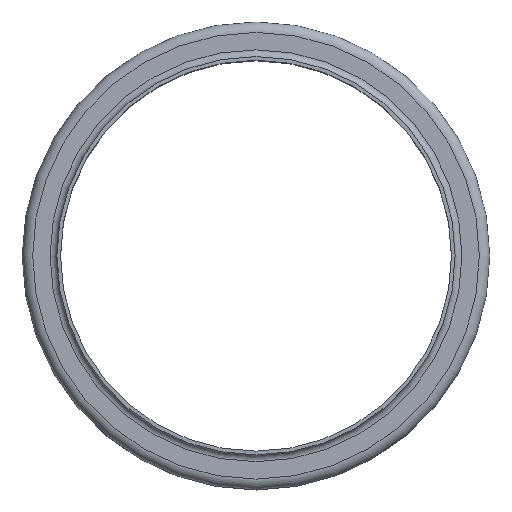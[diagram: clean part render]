
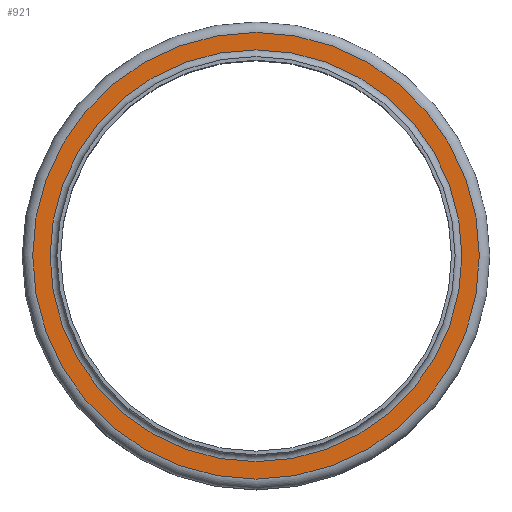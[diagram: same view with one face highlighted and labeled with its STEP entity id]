
A CAD part, top view. The second image highlights one B-rep face of the part: STEP entity #921.
In plain terms, the highlighted planar face has unit normal (0, 0, 1).
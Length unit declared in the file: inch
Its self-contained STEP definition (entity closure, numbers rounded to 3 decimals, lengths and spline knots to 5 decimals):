
#98=FACE_BOUND('',#272,.T.);
#165=FACE_OUTER_BOUND('',#271,.T.);
#271=EDGE_LOOP('',(#772));
#272=EDGE_LOOP('',(#773));
#385=CIRCLE('',#1110,6.71625);
#386=CIRCLE('',#1112,7.28375);
#466=VERTEX_POINT('',#1734);
#467=VERTEX_POINT('',#1738);
#571=EDGE_CURVE('',#466,#466,#385,.T.);
#572=EDGE_CURVE('',#467,#467,#386,.T.);
#772=ORIENTED_EDGE('',*,*,#572,.F.);
#773=ORIENTED_EDGE('',*,*,#571,.T.);
#854=PLANE('',#1111);
#921=ADVANCED_FACE('',(#165,#98),#854,.T.);
#1110=AXIS2_PLACEMENT_3D('',#1736,#1446,#1447);
#1111=AXIS2_PLACEMENT_3D('',#1737,#1448,#1449);
#1112=AXIS2_PLACEMENT_3D('',#1739,#1450,#1451);
#1446=DIRECTION('center_axis',(0.,0.,-1.));
#1447=DIRECTION('ref_axis',(1.,0.,0.));
#1448=DIRECTION('center_axis',(0.,0.,1.));
#1449=DIRECTION('ref_axis',(1.,0.,0.));
#1450=DIRECTION('center_axis',(0.,0.,-1.));
#1451=DIRECTION('ref_axis',(1.,0.,0.));
#1734=CARTESIAN_POINT('',(6.71625,0.,-0.22125));
#1736=CARTESIAN_POINT('Origin',(0.,0.,-0.22125));
#1737=CARTESIAN_POINT('Origin',(0.,7.28375,-0.22125));
#1738=CARTESIAN_POINT('',(7.28375,0.,-0.22125));
#1739=CARTESIAN_POINT('Origin',(0.,0.,-0.22125));
